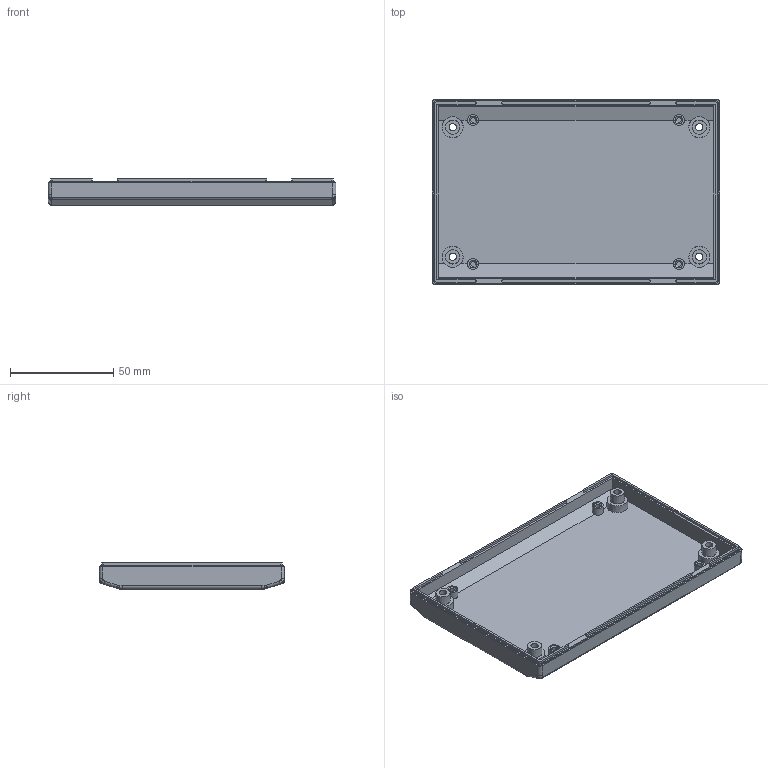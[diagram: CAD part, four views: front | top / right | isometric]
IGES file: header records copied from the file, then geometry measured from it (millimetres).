
Global section: file name: No Iges File Name specified; native system: Autodesk Inventor 2011; preprocessor: AutoDesk Inventor Iges Exporter R2011; author: tcook; date: 20101029.091428; units: inch
Bounding box: 139.68 x 89.9 x 12.7 mm (x, y, z)
Volume: 50916.2 mm3; surface area: 35311.4 mm2
Topology: 1 solids, 1 shells, 206 faces, 518 edges, 332 vertices
Faces by surface type: bspline 88, plane 52, cylinder 30, cone 24, torus 8, revolution 4
